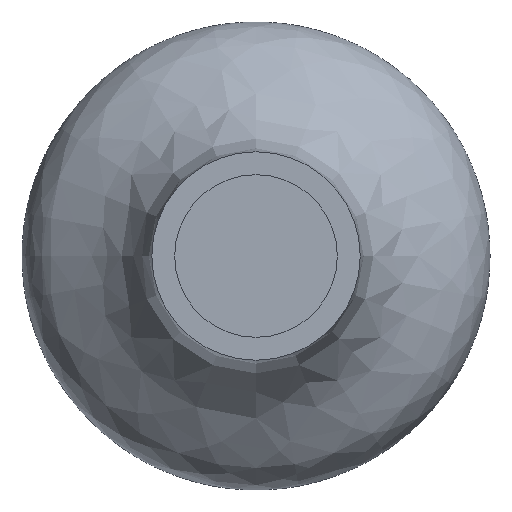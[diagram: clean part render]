
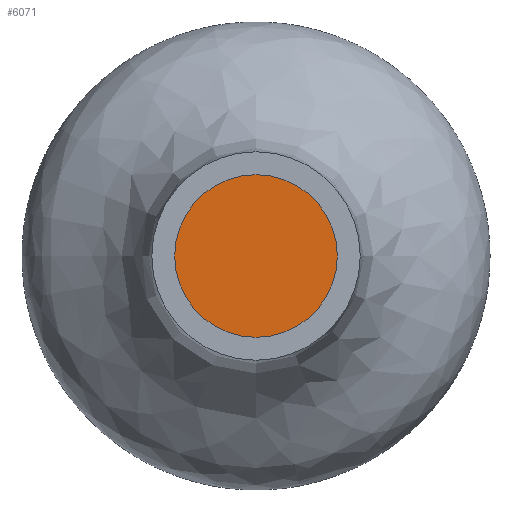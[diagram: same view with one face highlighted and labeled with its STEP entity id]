
A CAD part, front view. The second image highlights one B-rep face of the part: STEP entity #6071.
In plain terms, the highlighted planar face has unit normal (0, -1, 0).
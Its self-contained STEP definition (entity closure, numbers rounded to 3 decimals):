
#743=FACE_OUTER_BOUND('',#1228,.T.);
#1228=EDGE_LOOP('',(#3893));
#1714=CIRCLE('',#6571,5.475);
#2439=VERTEX_POINT('',#10439);
#2925=EDGE_CURVE('',#2439,#2439,#1714,.T.);
#3893=ORIENTED_EDGE('',*,*,#2925,.F.);
#5829=PLANE('',#6570);
#6071=ADVANCED_FACE('',(#743),#5829,.T.);
#6570=AXIS2_PLACEMENT_3D('',#10438,#7780,#7781);
#6571=AXIS2_PLACEMENT_3D('',#10440,#7782,#7783);
#7780=DIRECTION('center_axis',(0.,-1.,0.));
#7781=DIRECTION('ref_axis',(1.,0.,0.));
#7782=DIRECTION('center_axis',(0.,1.,0.));
#7783=DIRECTION('ref_axis',(1.,0.,0.));
#10438=CARTESIAN_POINT('Origin',(0.,17.3,0.));
#10439=CARTESIAN_POINT('',(-5.475,17.3,0.));
#10440=CARTESIAN_POINT('Origin',(0.,17.3,0.));
